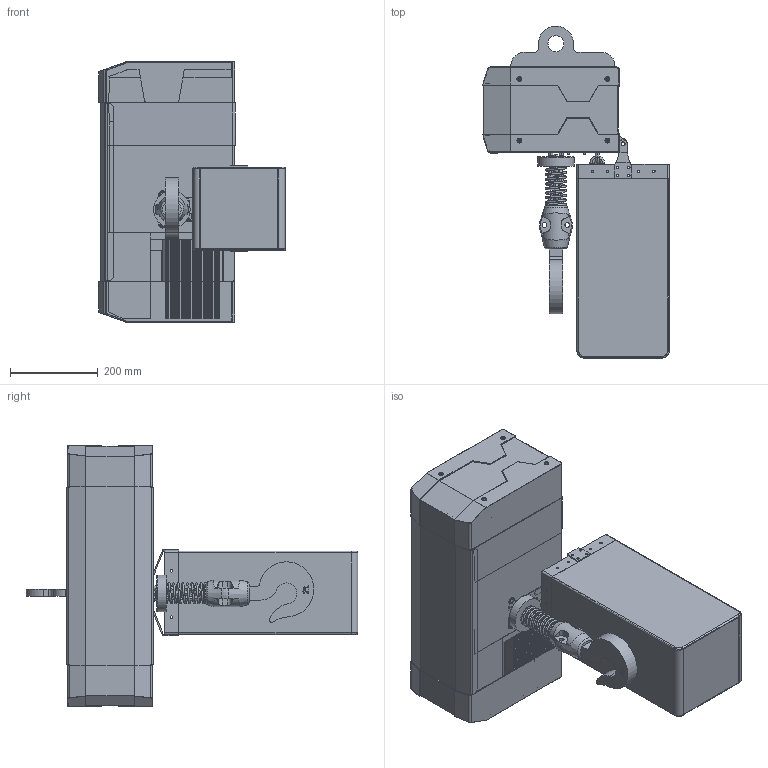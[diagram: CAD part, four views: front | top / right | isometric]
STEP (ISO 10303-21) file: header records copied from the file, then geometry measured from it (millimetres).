
FILE_DESCRIPTION(/* description */ (''),/* implementation_level */ '2;1');
FILE_NAME(/* name */ 'YJ 02-01 固定式.stp',/* time_stamp */ '2026-06-10T08:55:58+08:00',/* author */ (''),/* organization */ (''),/* preprocessor_version */ 'ST-DEVELOPER v16.7',/* originating_system */ 'SIEMENS PLM Software NX 12.0',/* authorisation */ '');
FILE_SCHEMA (('AP203_CONFIGURATION_CONTROLLED_3D_DESIGN_OF_MECHANICAL_PARTS_AND_ASSEMBLIES_MIM_LF { 1 0 10303 403 2 1 2}'));
Products named in the file (1): A099878D52bq3
Bounding box: 424.21 x 754.75 x 593 mm (x, y, z)
Volume: 28029394.4 mm3; surface area: 2723378.5 mm2
Topology: 17 solids, 22 shells, 2830 faces, 7579 edges, 4615 vertices
Faces by surface type: plane 1091, cylinder 1088, torus 305, bspline 125, extrusion 94, cone 64, sphere 63
Full cylindrical faces by diameter (mm): 2 x4, 2.4 x4, 3.4 x8, 4.5 x4, 5.5 x32, 5.795 x8, 5.8 x2, 6 x1, 6.3 x4, 6.4 x2, 6.6 x8, 9 x2, 10 x8, 10.3 x13, 11 x2, 15 x2, 16.5 x1, 24.5 x1, 24.8 x1, 26 x2, 36.5 x1, 43.5 x2, 47 x2, 50 x1, 83 x2
Entity records: 101009 total; most frequent: CARTESIAN_POINT 32182, ORIENTED_EDGE 14494, DIRECTION 13898, EDGE_CURVE 7247, AXIS2_PLACEMENT_3D 4858, VERTEX_POINT 4531, VECTOR 4182, LINE 4088
